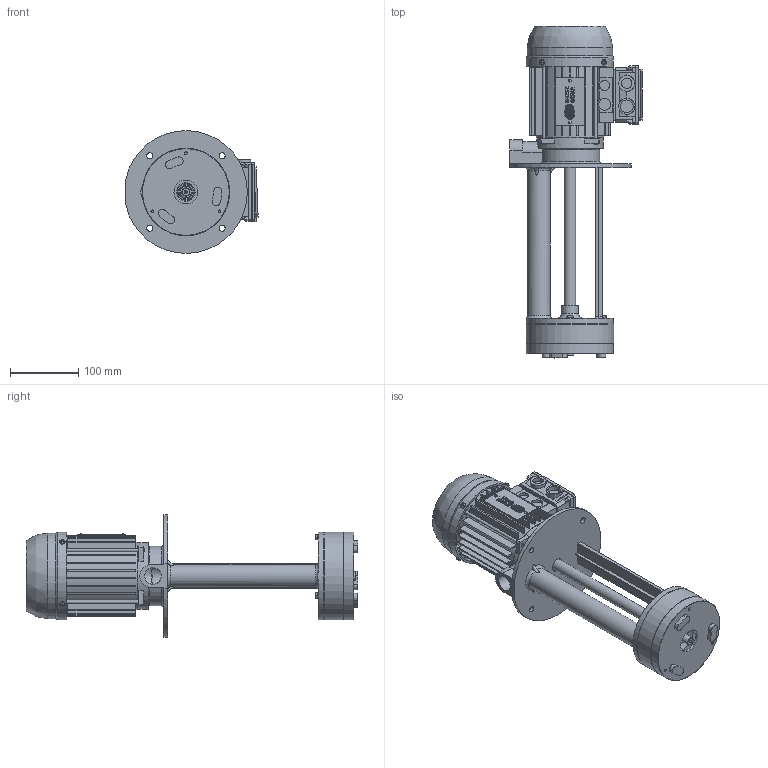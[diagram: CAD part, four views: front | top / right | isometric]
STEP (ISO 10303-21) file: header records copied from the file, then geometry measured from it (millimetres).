
FILE_DESCRIPTION(/* description */ (''),/* implementation_level */ '2;1');
FILE_NAME(/* name */ 'T:\PROGETTI\2019 - REVISIONE CATALOGHI\STEP\MP 63-71\YT63MPC++280.stp',/* time_stamp */ '2019-05-20T14:48:25+02:00',/* author */ ('cboccato'),/* organization */ (''),/* preprocessor_version */ 'ST-DEVELOPER v17.2',/* originating_system */ 'Autodesk Inventor 2019',/* authorisation */ '');
FILE_SCHEMA (('CONFIG_CONTROL_DESIGN'));
Products named in the file (1): YT63MPC++280_iLogic_Shrinkwrap
Bounding box: 193.93 x 486.27 x 179.97 mm (x, y, z)
Volume: 1277681 mm3; surface area: 600543 mm2
Topology: 99 solids, 113 shells, 2834 faces, 7408 edges, 4914 vertices
Faces by surface type: plane 1866, cylinder 605, cone 206, bspline 88, torus 55, sphere 14
Full cylindrical faces by diameter (mm): 2 x2, 2.53 x2, 3 x4, 3.2 x7, 3.5 x4, 3.8 x1, 3.9 x4, 4 x4, 4.134 x3, 4.3 x4, 4.35 x4, 4.459 x4, 4.6 x4, 5 x3, 5.5 x3, 6.9 x3, 7.2 x4, 7.6 x1, 9 x4, 9.6 x4, 12 x2, 14 x1, 14.4 x2, 14.8 x1, 15 x2, 16 x1, 16.2 x1, 17 x3, 17.4 x2, 17.55 x1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
Entity records: 96523 total; most frequent: CARTESIAN_POINT 22732, ORIENTED_EDGE 15008, DIRECTION 13956, EDGE_CURVE 7504, VERTEX_POINT 5108, LINE 4884, VECTOR 4884, AXIS2_PLACEMENT_3D 4536
